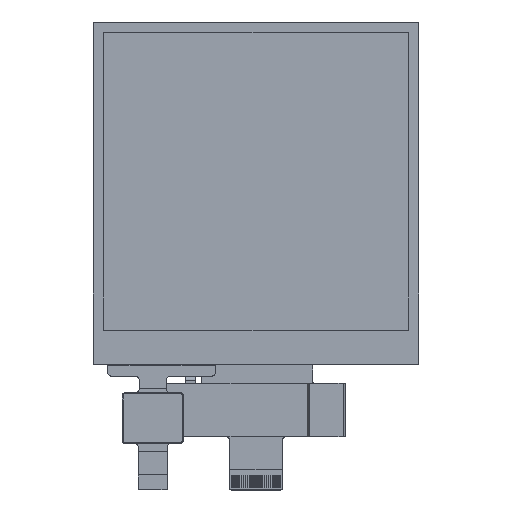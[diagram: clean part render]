
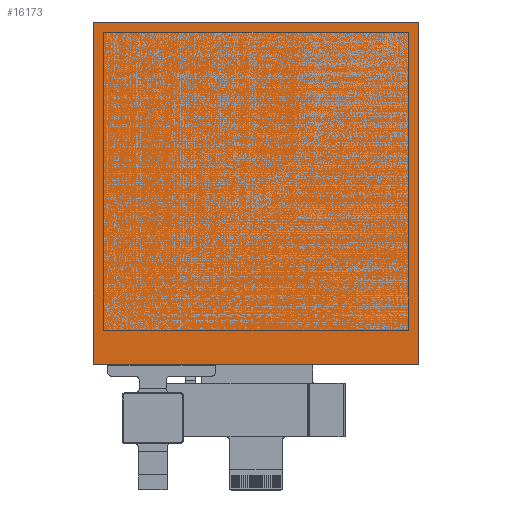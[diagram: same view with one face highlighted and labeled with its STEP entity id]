
A CAD part, top view. The second image highlights one B-rep face of the part: STEP entity #16173.
In plain terms, the highlighted planar face has unit normal (0, 0, 1).
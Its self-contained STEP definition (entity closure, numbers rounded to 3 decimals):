
#180 = AXIS2_PLACEMENT_3D ( 'NONE', #3428, #8570, #6543 ) ;
#511 = CARTESIAN_POINT ( 'NONE',  ( -41.192, 60.911, 41.243 ) ) ;
#739 = AXIS2_PLACEMENT_3D ( 'NONE', #2262, #11281, #4878 ) ;
#766 = DIRECTION ( 'NONE',  ( 0., 0., 1. ) ) ;
#784 = ORIENTED_EDGE ( 'NONE', *, *, #3614, .T. ) ;
#935 = CARTESIAN_POINT ( 'NONE',  ( -118.748, 60.611, 41.243 ) ) ;
#1157 = CARTESIAN_POINT ( 'NONE',  ( -118.448, 60.911, 41.243 ) ) ;
#1160 = ORIENTED_EDGE ( 'NONE', *, *, #6475, .T. ) ;
#1542 = EDGE_CURVE ( 'NONE', #12098, #12518, #1714, .T. ) ;
#1564 = VECTOR ( 'NONE', #13242, 1000. ) ;
#1684 = ORIENTED_EDGE ( 'NONE', *, *, #1542, .T. ) ;
#1714 = LINE ( 'NONE', #14752, #1564 ) ;
#2249 = DIRECTION ( 'NONE',  ( 1., 0., 0. ) ) ;
#2262 = CARTESIAN_POINT ( 'NONE',  ( -118.448, -20.625, 41.243 ) ) ;
#2857 = CARTESIAN_POINT ( 'NONE',  ( -41.192, 60.911, 41.243 ) ) ;
#3353 = CIRCLE ( 'NONE', #13301, 0.3 ) ;
#3428 = CARTESIAN_POINT ( 'NONE',  ( -41.192, 60.611, 41.243 ) ) ;
#3515 = LINE ( 'NONE', #13778, #8243 ) ;
#3614 = EDGE_CURVE ( 'NONE', #14959, #6402, #7079, .T. ) ;
#3932 = CIRCLE ( 'NONE', #739, 0.3 ) ;
#4152 = VERTEX_POINT ( 'NONE', #7455 ) ;
#4273 = CARTESIAN_POINT ( 'NONE',  ( -40.892, 60.611, 41.243 ) ) ;
#4878 = DIRECTION ( 'NONE',  ( -1., 0., 0. ) ) ;
#4918 = ORIENTED_EDGE ( 'NONE', *, *, #9092, .T. ) ;
#5395 = DIRECTION ( 'NONE',  ( 0., -1., 0. ) ) ;
#5625 = CARTESIAN_POINT ( 'NONE',  ( -41.192, -20.925, 41.243 ) ) ;
#5806 = FACE_OUTER_BOUND ( 'NONE', #8740, .T. ) ;
#6402 = VERTEX_POINT ( 'NONE', #1157 ) ;
#6475 = EDGE_CURVE ( 'NONE', #4152, #9283, #3515, .T. ) ;
#6543 = DIRECTION ( 'NONE',  ( 1., 0., 0. ) ) ;
#6555 = VERTEX_POINT ( 'NONE', #14460 ) ;
#6723 = EDGE_CURVE ( 'NONE', #12518, #14959, #11720, .T. ) ;
#6878 = ORIENTED_EDGE ( 'NONE', *, *, #14831, .T. ) ;
#7079 = LINE ( 'NONE', #2857, #10446 ) ;
#7455 = CARTESIAN_POINT ( 'NONE',  ( -118.448, -20.925, 41.243 ) ) ;
#7532 = VERTEX_POINT ( 'NONE', #7740 ) ;
#7740 = CARTESIAN_POINT ( 'NONE',  ( -118.748, 60.611, 41.243 ) ) ;
#7879 = DIRECTION ( 'NONE',  ( 0., -1., 0. ) ) ;
#8156 = DIRECTION ( 'NONE',  ( 0., 0., 1. ) ) ;
#8243 = VECTOR ( 'NONE', #2249, 1000. ) ;
#8363 = ORIENTED_EDGE ( 'NONE', *, *, #6723, .T. ) ;
#8408 = DIRECTION ( 'NONE',  ( 1., 0., 0. ) ) ;
#8570 = DIRECTION ( 'NONE',  ( 0., 0., 1. ) ) ;
#8740 = EDGE_LOOP ( 'NONE', ( #1160, #6878, #1684, #8363, #784, #16622, #4918, #11885 ) ) ;
#8862 = VECTOR ( 'NONE', #7879, 1000. ) ;
#9092 = EDGE_CURVE ( 'NONE', #7532, #6555, #11364, .T. ) ;
#9244 = CARTESIAN_POINT ( 'NONE',  ( -41.192, -20.625, 41.243 ) ) ;
#9283 = VERTEX_POINT ( 'NONE', #5625 ) ;
#9425 = CARTESIAN_POINT ( 'NONE',  ( -40.892, -20.625, 41.243 ) ) ;
#9664 = AXIS2_PLACEMENT_3D ( 'NONE', #13460, #766, #8408 ) ;
#10439 = CIRCLE ( 'NONE', #13403, 0.3 ) ;
#10446 = VECTOR ( 'NONE', #10699, 1000. ) ;
#10699 = DIRECTION ( 'NONE',  ( -1., 0., 0. ) ) ;
#10966 = EDGE_CURVE ( 'NONE', #6402, #7532, #3353, .T. ) ;
#11281 = DIRECTION ( 'NONE',  ( 0., 0., 1. ) ) ;
#11364 = LINE ( 'NONE', #935, #8862 ) ;
#11720 = CIRCLE ( 'NONE', #180, 0.3 ) ;
#11789 = DIRECTION ( 'NONE',  ( 0., 0., 1. ) ) ;
#11885 = ORIENTED_EDGE ( 'NONE', *, *, #16451, .T. ) ;
#11949 = DIRECTION ( 'NONE',  ( 0., 1., 0. ) ) ;
#12041 = PLANE ( 'NONE',  #9664 ) ;
#12098 = VERTEX_POINT ( 'NONE', #9425 ) ;
#12518 = VERTEX_POINT ( 'NONE', #4273 ) ;
#13242 = DIRECTION ( 'NONE',  ( 0., 1., 0. ) ) ;
#13301 = AXIS2_PLACEMENT_3D ( 'NONE', #14375, #8156, #11949 ) ;
#13403 = AXIS2_PLACEMENT_3D ( 'NONE', #9244, #11789, #5395 ) ;
#13460 = CARTESIAN_POINT ( 'NONE',  ( -77.83, 19.993, 41.243 ) ) ;
#13778 = CARTESIAN_POINT ( 'NONE',  ( -118.448, -20.925, 41.243 ) ) ;
#14375 = CARTESIAN_POINT ( 'NONE',  ( -118.448, 60.611, 41.243 ) ) ;
#14460 = CARTESIAN_POINT ( 'NONE',  ( -118.748, -20.625, 41.243 ) ) ;
#14752 = CARTESIAN_POINT ( 'NONE',  ( -40.892, -20.625, 41.243 ) ) ;
#14831 = EDGE_CURVE ( 'NONE', #9283, #12098, #10439, .T. ) ;
#14959 = VERTEX_POINT ( 'NONE', #511 ) ;
#16173 = ADVANCED_FACE ( 'NONE', ( #5806 ), #12041, .T. ) ;
#16451 = EDGE_CURVE ( 'NONE', #6555, #4152, #3932, .T. ) ;
#16622 = ORIENTED_EDGE ( 'NONE', *, *, #10966, .T. ) ;
